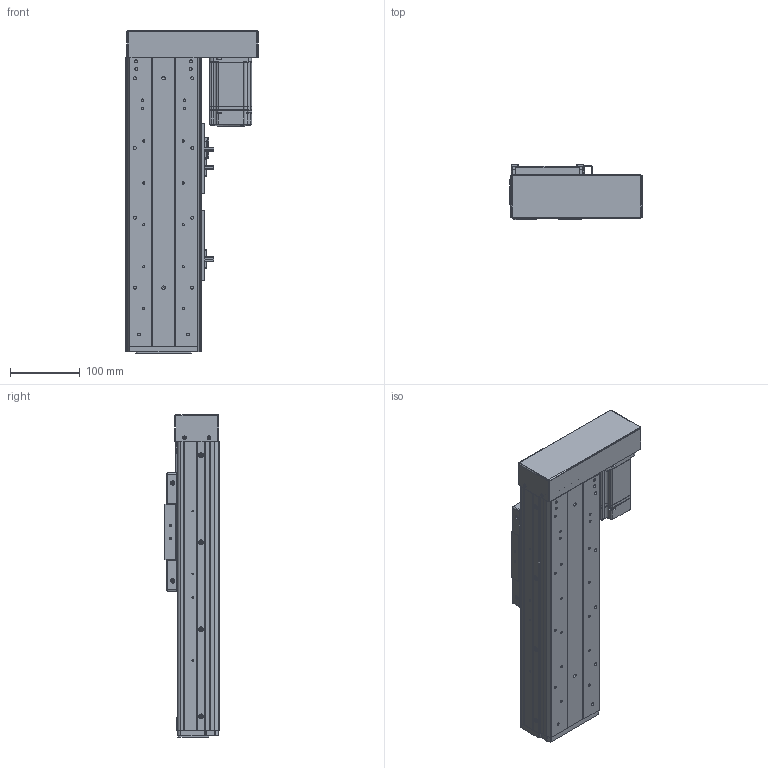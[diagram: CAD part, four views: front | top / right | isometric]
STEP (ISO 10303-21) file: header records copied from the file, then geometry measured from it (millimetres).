
FILE_DESCRIPTION (( 'STEP AP203' ), '1' );
FILE_NAME ('RY100FS-L1620-300-RK(15双轨).SLDASM_150.step', '2021-03-02T07:45:52', ( '盈信电脑' ), ( '东莞市道滘镇水果街19号' ), 'SwSTEP 2.0', 'SolidWorks 2012', '' );
FILE_SCHEMA (( 'CONFIG_CONTROL_DESIGN' ));
Products named in the file (21): RY100FS-15邧寢蛌殏萇儂欶; RY100FS-L1620-300-RK(15邧寢).SLDASM_150; RY100FS-15邧寢蛌殏萇儂啣; 蚥薯蝶紫輸; 滅袉蝶14-35; RY100FS-15邧寢蛌殏萇儂釱; RY100FS-双轨螺母座(16丝杆）; 1; RY80俋离覜茼え; RY100F-詩湍揤踡輸; 覜茼ん672; 672嫖萇羲壽假蚾釱; RY100F-詩湍幗謫粣; RY100F-詩湍揤踡謫; RY100F-綴裔啣; 棠沺沭; RY100FS-300-RK15邧寢祥凄詩湍_150; RY100F-滅鳥裔啣; RY100FS-双轨铝滑块(上板）; RY100FS-300-RK15絳寢倰第奻裔啣_150; RY100FS-300-RK15絳寢倰第菁釱_150
Assembly tree (29 placements, depth 2):
  RY100FS-L1620-300-RK(15邧寢).SLDASM_150
    RY100FS-300-RK15絳寢倰第菁釱_150
    RY100FS-300-RK15絳寢倰第奻裔啣_150  x2
    RY100FS-300-RK15邧寢祥凄詩湍_150
    RY100FS-双轨铝滑块(上板）
    RY100F-滅鳥裔啣
    棠沺沭  x2
    RY100F-詩湍幗謫粣
    RY100F-詩湍揤踡謫  x2
    RY100F-綴裔啣
    672嫖萇羲壽假蚾釱  x2
    RY80俋离覜茼え  x2
    覜茼ん672  x3
    RY100F-詩湍揤踡輸  x2
    RY100FS-双轨螺母座(16丝杆）
    RY100FS-15邧寢蛌殏萇儂釱
    滅袉蝶14-35
    1
    RY100FS-15邧寢蛌殏萇儂啣
    RY100FS-15邧寢蛌殏萇儂欶
    蚥薯蝶紫輸  x2
Bounding box: 189.5 x 78.5 x 462 mm (x, y, z)
Volume: 1589503.5 mm3; surface area: 639817.5 mm2
Topology: 29 solids, 29 shells, 2135 faces, 5728 edges, 3689 vertices
Faces by surface type: plane 1011, cylinder 923, cone 168, bspline 33
Entity records: 59479 total; most frequent: CARTESIAN_POINT 11834, DIRECTION 9559, ORIENTED_EDGE 9260, EDGE_CURVE 4630, AXIS2_PLACEMENT_3D 3370, VERTEX_POINT 3037, VECTOR 2819, LINE 2819
